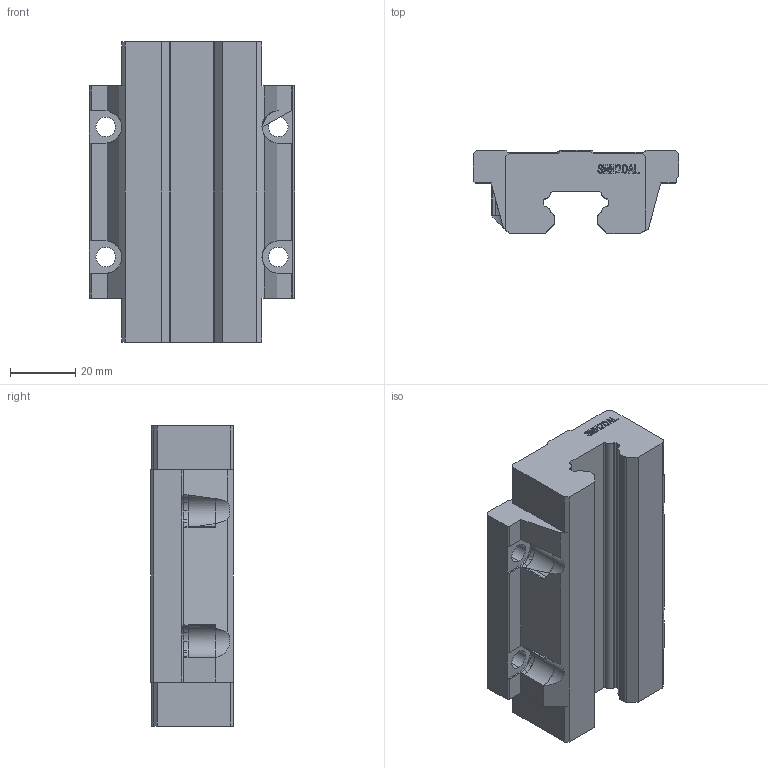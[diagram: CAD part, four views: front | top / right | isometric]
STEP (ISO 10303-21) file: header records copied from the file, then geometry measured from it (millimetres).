
FILE_DESCRIPTION (( 'STEP AP203' ), '1' );
FILE_NAME ('SMH20AL.stp', '2019-09-23T00:25:59', ( 'pgos' ), ( '' ), 'SwSTEP 2.0', 'SolidWorks 2014', '' );
FILE_SCHEMA (( 'CONFIG_CONTROL_DESIGN' ));
Length unit declared in the file: millimetre
Products named in the file (1): SMH20AL
Bounding box: 63 x 25.4 x 92.2 mm (x, y, z)
Volume: 95029 mm3; surface area: 20401 mm2
Topology: 2 solids, 2 shells, 242 faces, 683 edges, 454 vertices
Faces by surface type: plane 166, bspline 46, cylinder 30
Entity records: 9840 total; most frequent: CARTESIAN_POINT 3855, ORIENTED_EDGE 1366, DIRECTION 988, EDGE_CURVE 683, VECTOR 482, LINE 482, VERTEX_POINT 454, EDGE_LOOP 259
